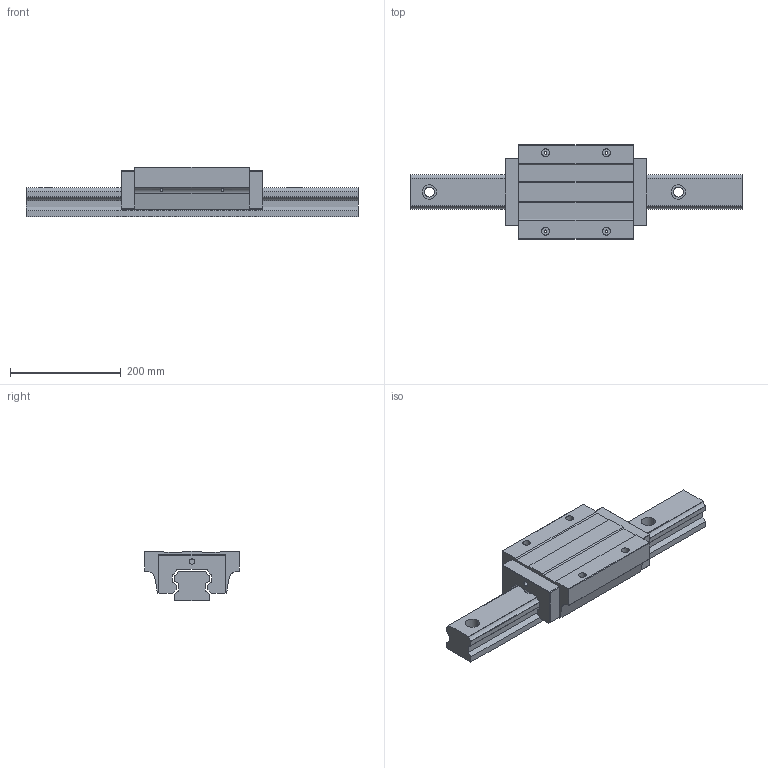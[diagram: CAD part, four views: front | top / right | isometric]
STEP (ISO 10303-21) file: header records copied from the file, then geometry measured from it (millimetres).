
FILE_DESCRIPTION (( 'STEP AP203' ), '1' );
FILE_NAME ('TRH65FE-XN.STEP', '2023-02-07T03:06:00', ( '' ), ( '' ), 'SwSTEP 2.0', 'SolidWorks 2019', '' );
FILE_SCHEMA (( 'CONFIG_CONTROL_DESIGN' ));
Length unit declared in the file: millimetre
Products named in the file (1): TRH65FE-XN
Bounding box: 600 x 170 x 90 mm (x, y, z)
Volume: 3719137.8 mm3; surface area: 325788.6 mm2
Topology: 2 solids, 2 shells, 148 faces, 378 edges, 240 vertices
Faces by surface type: plane 76, cylinder 68, sphere 4
Entity records: 4940 total; most frequent: CARTESIAN_POINT 1188, DIRECTION 782, ORIENTED_EDGE 748, EDGE_CURVE 374, AXIS2_PLACEMENT_3D 273, VERTEX_POINT 240, LINE 236, VECTOR 236
